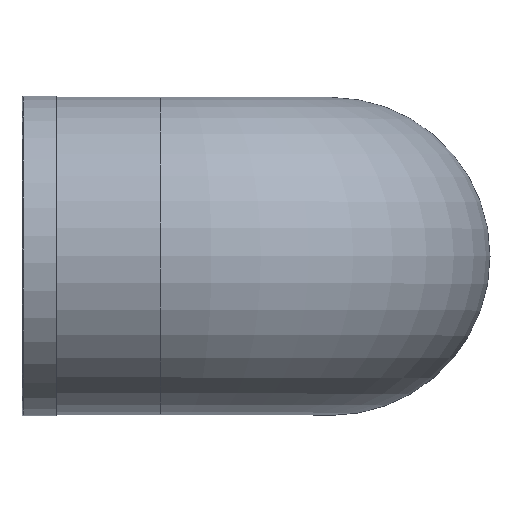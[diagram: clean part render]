
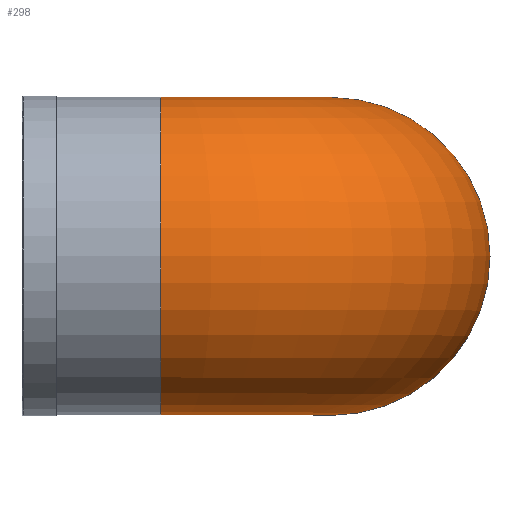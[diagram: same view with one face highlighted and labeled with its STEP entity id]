
A CAD part, top view. The second image highlights one B-rep face of the part: STEP entity #298.
In plain terms, the highlighted toroidal (fillet/blend) face has major radius 15 mm and minor radius 14 mm.
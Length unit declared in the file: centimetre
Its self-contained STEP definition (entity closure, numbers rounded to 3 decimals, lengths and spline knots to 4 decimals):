
#38=TOROIDAL_SURFACE('',#331,1.5,1.4);
#56=FACE_BOUND('',#110,.T.);
#77=FACE_OUTER_BOUND('',#109,.T.);
#109=EDGE_LOOP('',(#240));
#110=EDGE_LOOP('',(#241));
#131=CIRCLE('',#330,1.4);
#132=CIRCLE('',#332,1.4);
#156=VERTEX_POINT('',#3502);
#157=VERTEX_POINT('',#3505);
#187=EDGE_CURVE('',#156,#156,#131,.T.);
#188=EDGE_CURVE('',#157,#157,#132,.T.);
#240=ORIENTED_EDGE('',*,*,#187,.F.);
#241=ORIENTED_EDGE('',*,*,#188,.T.);
#298=ADVANCED_FACE('',(#77,#56),#38,.T.);
#330=AXIS2_PLACEMENT_3D('',#3503,#394,#395);
#331=AXIS2_PLACEMENT_3D('',#3504,#396,#397);
#332=AXIS2_PLACEMENT_3D('',#3506,#398,#399);
#394=DIRECTION('center_axis',(-1.,0.,0.));
#395=DIRECTION('ref_axis',(0.,0.,-1.));
#396=DIRECTION('center_axis',(0.,-1.,0.));
#397=DIRECTION('ref_axis',(0.,0.,-1.));
#398=DIRECTION('center_axis',(0.,0.,1.));
#399=DIRECTION('ref_axis',(-1.,0.,0.));
#3502=CARTESIAN_POINT('',(-0.9078,0.,2.375));
#3503=CARTESIAN_POINT('Origin',(-0.9078,0.,0.975));
#3504=CARTESIAN_POINT('Origin',(-0.9078,0.,-0.525));
#3505=CARTESIAN_POINT('',(1.9922,0.,-0.525));
#3506=CARTESIAN_POINT('Origin',(0.5922,0.,-0.525));
